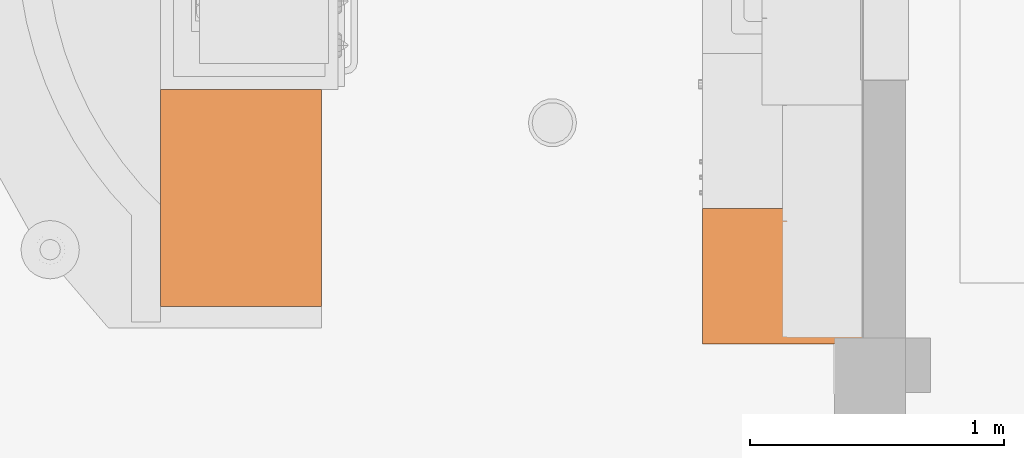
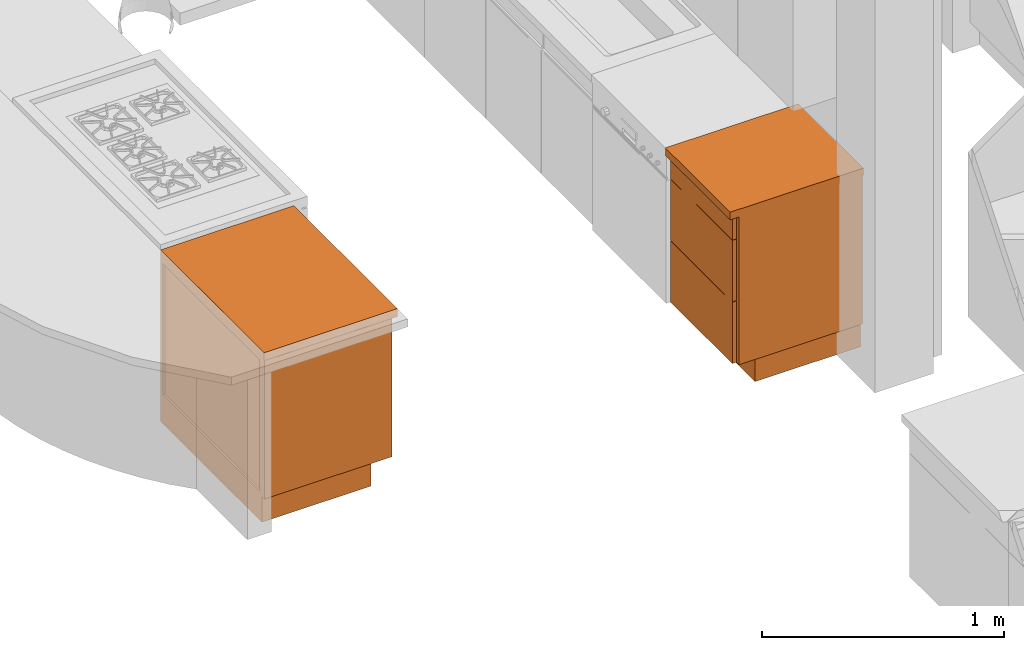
# One storey, part 62 of 77: 2 proxies.
"""IFC2X3 building model written with IfcOpenShell, lengths in inches."""

import ifcopenshell
import ifcopenshell.guid

model = None  # the IFC model being written
_history = None  # IfcOwnerHistory: only IFC2X3 demands one
_inside = {}  # id of a spatial element -> (the spatial element, [elements in it])
_under = {}  # id of a project, library or spatial element -> (it, [spatial elements below it])
_declared = {}  # id of a project -> (the project, [libraries it declares])
_typed = {}  # id of a type object -> (the type object, [elements of that type])
_made_of = {}  # id of a material, layer set ... -> (it, [elements and type objects made of it])


def new_model(schema):
    """Start an empty IFC model of exactly this schema.

    Asked for "IFC4X3", IfcOpenShell would pick the latest addendum, in which some entities
    have other attributes; the version numbers below select the first issue.
    IFC2X3 requires an IfcOwnerHistory on every rooted entity: one is made here for all.
    """
    global model, _history
    if schema == "IFC4X3":
        model = ifcopenshell.file(schema_version=(4, 3, 0, 0))
    else:
        model = ifcopenshell.file(schema=schema)
    _inside.clear()
    _under.clear()
    _declared.clear()
    _typed.clear()
    _made_of.clear()
    _history = None
    if model.schema == "IFC2X3":
        org = make("IfcOrganization", Name="unknown")
        user = make(
            "IfcPersonAndOrganization",
            ThePerson=make("IfcPerson", FamilyName="unknown"),
            TheOrganization=org,
        )
        app = make(
            "IfcApplication",
            ApplicationDeveloper=org,
            Version="unknown",
            ApplicationFullName="unknown",
            ApplicationIdentifier="unknown",
        )
        _history = make(
            "IfcOwnerHistory",
            OwningUser=user,
            OwningApplication=app,
            ChangeAction="ADDED",
            CreationDate=0,
        )
    return model


def make(cls, **values):
    """One entity of the class cls with the attributes given. An attribute that is None is left unset."""
    return model.create_entity(
        cls, **{name: value for name, value in values.items() if value is not None}
    )


def entity(cls, *values):
    """Any entity or typed value of the class cls, its attributes in the order of the schema. None: left unset."""
    e = model.create_entity(cls)
    for i, value in enumerate(values):
        if value is not None:
            e[i] = value
    return e


def rooted(cls, **values):
    """An entity with a GlobalId (a new one), such as an element, a storey or a relation."""
    return make(cls, GlobalId=ifcopenshell.guid.new(), OwnerHistory=_history, **values)


def si_unit(unit_type, name, prefix=None):
    """IfcSIUnit, for example si_unit("LENGTHUNIT", "METRE", prefix="MILLI")."""
    return make("IfcSIUnit", UnitType=unit_type, Prefix=prefix, Name=name)


def converted_unit(unit_type, name, factor, base, dimensions=None, offset=None):
    """IfcConversionBasedUnit, such as the inch: factor (a typed value) times the base unit."""
    return make(
        "IfcConversionBasedUnit"
        if offset is None
        else "IfcConversionBasedUnitWithOffset",
        ConversionOffset=offset,
        Dimensions=None
        if dimensions is None
        else entity("IfcDimensionalExponents", *dimensions),
        UnitType=unit_type,
        Name=name,
        ConversionFactor=make(
            "IfcMeasureWithUnit", ValueComponent=factor, UnitComponent=base
        ),
    )


def derived_unit(unit_type, elements):
    """IfcDerivedUnit: a product of units, each with its exponent."""
    return make(
        "IfcDerivedUnit",
        Elements=[
            make("IfcDerivedUnitElement", Unit=unit, Exponent=power)
            for unit, power in elements
        ],
        UnitType=unit_type,
    )


def money_unit(currency):
    """IfcMonetaryUnit."""
    return make("IfcMonetaryUnit", Currency=currency)


def assignment(units):
    """IfcUnitAssignment: the units of a project."""
    return None if units is None else make("IfcUnitAssignment", Units=units)


def point(xyz):
    """IfcCartesianPoint."""
    return None if xyz is None else make("IfcCartesianPoint", Coordinates=xyz)


def direction(xyz):
    """IfcDirection."""
    return None if xyz is None else make("IfcDirection", DirectionRatios=xyz)


def frame(location, z_axis=None, x_axis=None):
    """IfcAxis2Placement3D, a coordinate frame: its origin and axes. An axis left out is left unset."""
    return make(
        "IfcAxis2Placement3D",
        Location=point(location),
        Axis=direction(z_axis),
        RefDirection=direction(x_axis),
    )


def origin_with_axes():
    """The frame at (0, 0, 0) with the z axis (0, 0, 1) and the x axis (1, 0, 0) written out."""
    return frame((0.0, 0.0, 0.0), z_axis=(0.0, 0.0, 1.0), x_axis=(1.0, 0.0, 0.0))


def place(relative_to, where):
    """IfcLocalPlacement: puts the frame where relative to a parent placement (None: the world)."""
    return make(
        "IfcLocalPlacement", PlacementRelTo=relative_to, RelativePlacement=where
    )


def context(
    kind, dimensions, precision=None, world=None, true_north=None, identifier=None
):
    """IfcGeometricRepresentationContext, for example the 3D "Model" context."""
    return make(
        "IfcGeometricRepresentationContext",
        ContextIdentifier=identifier,
        ContextType=kind,
        CoordinateSpaceDimension=dimensions,
        Precision=precision,
        WorldCoordinateSystem=world,
        TrueNorth=true_north,
    )


def subcontext(parent, identifier, kind, view, scale=None):
    """IfcGeometricRepresentationSubContext, for example "Body" below "Model"."""
    return make(
        "IfcGeometricRepresentationSubContext",
        ContextIdentifier=identifier,
        ContextType=kind,
        ParentContext=parent,
        TargetScale=scale,
        TargetView=view,
    )


def project(units=None, contexts=None):
    """IfcProject with its units and contexts."""
    return rooted(
        "IfcProject",
        Name="project",
        RepresentationContexts=contexts,
        UnitsInContext=assignment(units),
    )


def spatial(cls, under=None, at=None, **own):
    """A site, building, storey or space (cls), placed at a placement, below another one or the project."""
    s = rooted(cls, ObjectPlacement=at, **own)
    if under is not None:
        _under.setdefault(under.id(), (under, []))[1].append(s)
    return s


def faces_of(points, faces, orient=None, outer=None):
    """IfcFace entities. A face is a list of loops; a loop is a list of indices into points, from 0.

    orient and outer hold one flag for each loop. By default every Orientation is true, the
    first loop of a face is its IfcFaceOuterBound and the others are IfcFaceBound.
    """
    made = []
    for i, loops in enumerate(faces):
        bounds = []
        for j, loop in enumerate(loops):
            is_outer = j == 0 if outer is None else outer[i][j]
            bounds.append(
                make(
                    "IfcFaceOuterBound" if is_outer else "IfcFaceBound",
                    Bound=make("IfcPolyLoop", Polygon=[points[k] for k in loop]),
                    Orientation=True if orient is None else orient[i][j],
                )
            )
        made.append(make("IfcFace", Bounds=bounds))
    return made


def faceted_brep(points, faces, orient=None, outer=None, voids=None):
    """IfcFacetedBrep: a solid bounded by flat faces; with voids (closed shells), ...WithVoids."""
    shared = [point(p) for p in points]
    hull = make("IfcClosedShell", CfsFaces=faces_of(shared, faces, orient, outer))
    if voids is None:
        return make("IfcFacetedBrep", Outer=hull)
    return make(
        "IfcFacetedBrepWithVoids",
        Outer=hull,
        Voids=[
            make(cls, CfsFaces=faces_of(shared, fs, o, b)) for cls, fs, o, b in voids
        ],
    )


def shape(context_of_items, identifier, shape_type, items):
    """IfcShapeRepresentation: the items that make up one representation, for example the "Body"."""
    return make(
        "IfcShapeRepresentation",
        ContextOfItems=context_of_items,
        RepresentationIdentifier=identifier,
        RepresentationType=shape_type,
        Items=items,
    )


def made_of(thing, what):
    """Note that an element or type object is made of a material, layer set ...; save() writes the relation."""
    if what is not None:
        _made_of.setdefault(what.id(), (what, []))[1].append(thing)
    return thing


def type_object(cls, material=None, **own):
    """A type object (cls), such as IfcWallType, which elements share."""
    return made_of(rooted(cls, **own), material)


def element(
    cls,
    number,
    at=None,
    inside=None,
    cuts=None,
    type_object=None,
    material=None,
    context=None,
    identifier="Body",
    shape_type=None,
    held_by="IfcProductDefinitionShape",
    body=None,
    shapes=None,
    **own,
):
    """One element of the class cls, such as IfcWall. Its Tag is "e" and its number.

    at: its placement. inside: the storey or other place that contains it. cuts: it is an
    opening in that element (IfcRelVoidsElement). A single representation is given by context,
    identifier, shape_type and body (its items); several are given by shapes. held_by: the class
    of the entity that holds the representations. save() writes the other relations.
    """
    e = rooted(cls, Tag="e%d" % number, ObjectPlacement=at, **own)
    if body is not None:
        shapes = [shape(context, identifier, shape_type, body)]
    if shapes is not None:
        e.Representation = make(held_by, Representations=shapes)
    if inside is not None:
        _inside.setdefault(inside.id(), (inside, []))[1].append(e)
    if cuts is not None:
        rooted(
            "IfcRelVoidsElement", RelatingBuildingElement=cuts, RelatedOpeningElement=e
        )
    if type_object is not None:
        _typed.setdefault(type_object.id(), (type_object, []))[1].append(e)
    return made_of(e, material)


def aggregate(whole, parts):
    """IfcRelAggregates: a whole, such as a stair, and the parts it consists of."""
    return rooted("IfcRelAggregates", RelatingObject=whole, RelatedObjects=parts)


def save(model, path):
    """Write the relations noted so far, then the file.

    IfcRelAggregates (storeys below a building ...), IfcRelContainedInSpatialStructure (elements
    in a storey), IfcRelDefinesByType, IfcRelAssociatesMaterial and IfcRelDeclares: one each for
    every whole, place, type object, material and project.
    """
    for whole, parts in _under.values():
        aggregate(whole, parts)
    for where, things in _inside.values():
        rooted(
            "IfcRelContainedInSpatialStructure",
            RelatedElements=things,
            RelatingStructure=where,
        )
    for kind, things in _typed.values():
        rooted("IfcRelDefinesByType", RelatedObjects=things, RelatingType=kind)
    for what, things in _made_of.values():
        rooted("IfcRelAssociatesMaterial", RelatedObjects=things, RelatingMaterial=what)
    for by, libraries in _declared.values():
        rooted("IfcRelDeclares", RelatingContext=by, RelatedDefinitions=libraries)
    model.write(path)


model = new_model("IFC2X3")

# Units and contexts
model_context = context("Model", 3, precision=0.000393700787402, world=origin_with_axes(), true_north=direction((0.0, 1.0)))
body_context = subcontext(model_context, "Body", "Model", "MODEL_VIEW")
ifc_project = project(units=[converted_unit("LENGTHUNIT", "INCH", entity("IfcPositiveLengthMeasure", 0.0254), si_unit("LENGTHUNIT", "METRE"), dimensions=[1, 0, 0, 0, 0, 0, 0]), converted_unit("AREAUNIT", "SQUARE_FOOT", entity("IfcPositiveLengthMeasure", 0.09290304), si_unit("AREAUNIT", "SQUARE_METRE"), dimensions=[2, 0, 0, 0, 0, 0, 0]), si_unit("PLANEANGLEUNIT", "RADIAN"), si_unit("SOLIDANGLEUNIT", "STERADIAN"), money_unit("USD"), converted_unit("TIMEUNIT", "Year", entity("IfcTimeMeasure", 31556926.0), si_unit("TIMEUNIT", "SECOND"), dimensions=[0, 0, 1, 0, 0, 0, 0]), si_unit("MASSUNIT", "GRAM", prefix="KILO"), si_unit("THERMODYNAMICTEMPERATUREUNIT", "DEGREE_CELSIUS"), si_unit("LUMINOUSINTENSITYUNIT", "LUMEN"), si_unit("ENERGYUNIT", "JOULE", prefix="MEGA"), derived_unit("THERMALCONDUCTANCEUNIT", [(si_unit("POWERUNIT", "WATT"), 1), (si_unit("LENGTHUNIT", "METRE"), -1), (si_unit("THERMODYNAMICTEMPERATUREUNIT", "KELVIN"), -1)]), derived_unit("SPECIFICHEATCAPACITYUNIT", [(si_unit("ENERGYUNIT", "JOULE"), 1), (si_unit("MASSUNIT", "GRAM", prefix="KILO"), -1), (si_unit("THERMODYNAMICTEMPERATUREUNIT", "KELVIN"), -1)]), derived_unit("MASSDENSITYUNIT", [(si_unit("MASSUNIT", "GRAM", prefix="KILO"), 1), (si_unit("VOLUMEUNIT", "CUBIC_METRE"), -1)])], contexts=[model_context])

# Site, building, storey
site_placement = place(None, origin_with_axes())
site = spatial("IfcSite", under=ifc_project, at=site_placement, Name="Site", CompositionType="ELEMENT")
building_placement = place(site_placement, origin_with_axes())
building = spatial("IfcBuilding", under=site, at=building_placement, Name="Building", CompositionType="ELEMENT")
storey_placement = place(building_placement, frame((0.0, 0.0, 127.952755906), z_axis=(0.0, 0.0, 1.0), x_axis=(1.0, 0.0, 0.0)))
storey = spatial("IfcBuildingStorey", under=building, at=storey_placement, Name="Second Floor", CompositionType="ELEMENT", Elevation=127.953)

# Proxies
building_element_proxy_type = type_object("IfcBuildingElementProxyType", Name="Base Cabinet Block 25", PredefinedType="NOTDEFINED")
proxy_1_placement = place(storey_placement, frame((637.474370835, 229.985912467, 0.0), z_axis=(0.0, 0.0, 1.0), x_axis=(0.0, -1.0, 0.0)))
element("IfcBuildingElementProxy", 1, at=proxy_1_placement, inside=storey, type_object=building_element_proxy_type, Name="OBJ-15", context=body_context, shape_type="Brep", body=[
    faceted_brep([(0.0, -25.0, 34.5236220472), (21.062992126, -25.0, 34.5236220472), (21.062992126, -25.0, 36.0236220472), (0.0, -25.0, 36.0236220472), (0.0, 0.0, 34.5236220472), (21.062992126, 0.0, 34.5236220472), (21.062992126, 0.0, 36.0236220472), (0.0, 0.0, 36.0236220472)], [[[0, 1, 2, 3]], [[0, 4, 5, 1]], [[1, 5, 6, 2]], [[3, 2, 6, 7]], [[4, 0, 3, 7]], [[5, 4, 7, 6]]]),
    faceted_brep([(19.1318897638, -23.25, 5.9468503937), (0.946850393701, -23.25, 5.9468503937), (0.946850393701, -0.75, 5.9468503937), (19.1318897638, -0.75, 5.9468503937), (19.1318897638, -23.25, 6.3405511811), (0.946850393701, -23.25, 6.3405511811), (0.946850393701, -0.75, 6.3405511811), (19.1318897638, -0.75, 6.3405511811)], [[[0, 1, 2, 3]], [[1, 0, 4, 5]], [[2, 1, 5, 6]], [[3, 2, 6, 7]], [[0, 3, 7, 4]], [[5, 4, 7, 6]]]),
    faceted_brep([(1.7342519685, -23.25, 6.3405511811), (0.946850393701, -23.25, 6.3405511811), (0.946850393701, -0.75, 6.3405511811), (1.7342519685, -0.75, 6.3405511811), (1.7342519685, -23.25, 17.0531496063), (0.946850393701, -23.25, 17.0531496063), (0.946850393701, -0.75, 17.0531496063), (1.7342519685, -0.75, 17.0531496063)], [[[0, 1, 2, 3]], [[1, 0, 4, 5]], [[2, 1, 5, 6]], [[3, 2, 6, 7]], [[0, 3, 7, 4]], [[5, 4, 7, 6]]]),
    faceted_brep([(19.1318897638, -23.25, 6.3405511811), (18.344488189, -23.25, 6.3405511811), (18.344488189, -0.75, 6.3405511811), (19.1318897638, -0.75, 6.3405511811), (19.1318897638, -23.25, 17.0531496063), (18.344488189, -23.25, 17.0531496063), (18.344488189, -0.75, 17.0531496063), (19.1318897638, -0.75, 17.0531496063)], [[[0, 1, 2, 3]], [[1, 0, 4, 5]], [[2, 1, 5, 6]], [[3, 2, 6, 7]], [[0, 3, 7, 4]], [[5, 4, 7, 6]]]),
    faceted_brep([(18.344488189, -1.3405511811, 6.3405511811), (1.7342519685, -1.3405511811, 6.3405511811), (1.7342519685, -0.946850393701, 6.3405511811), (18.344488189, -0.946850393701, 6.3405511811), (18.344488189, -1.3405511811, 17.0531496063), (1.7342519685, -1.3405511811, 17.0531496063), (1.7342519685, -0.946850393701, 17.0531496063), (18.344488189, -0.946850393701, 17.0531496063)], [[[0, 1, 2, 3]], [[1, 0, 4, 5]], [[2, 1, 5, 6]], [[3, 2, 6, 7]], [[0, 3, 7, 4]], [[5, 4, 7, 6]]]),
    faceted_brep([(19.1318897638, -23.25, 17.4468503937), (0.946850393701, -23.25, 17.4468503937), (0.946850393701, -0.75, 17.4468503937), (19.1318897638, -0.75, 17.4468503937), (19.1318897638, -23.25, 17.8405511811), (0.946850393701, -23.25, 17.8405511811), (0.946850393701, -0.75, 17.8405511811), (19.1318897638, -0.75, 17.8405511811)], [[[0, 1, 2, 3]], [[1, 0, 4, 5]], [[2, 1, 5, 6]], [[3, 2, 6, 7]], [[0, 3, 7, 4]], [[5, 4, 7, 6]]]),
    faceted_brep([(1.7342519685, -23.25, 17.8405511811), (0.946850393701, -23.25, 17.8405511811), (0.946850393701, -0.75, 17.8405511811), (1.7342519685, -0.75, 17.8405511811), (1.7342519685, -23.25, 29.3031496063), (0.946850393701, -23.25, 29.3031496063), (0.946850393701, -0.75, 29.3031496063), (1.7342519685, -0.75, 29.3031496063)], [[[0, 1, 2, 3]], [[1, 0, 4, 5]], [[2, 1, 5, 6]], [[3, 2, 6, 7]], [[0, 3, 7, 4]], [[5, 4, 7, 6]]]),
    faceted_brep([(19.1318897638, -23.25, 17.8405511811), (18.344488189, -23.25, 17.8405511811), (18.344488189, -0.75, 17.8405511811), (19.1318897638, -0.75, 17.8405511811), (19.1318897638, -23.25, 29.3031496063), (18.344488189, -23.25, 29.3031496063), (18.344488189, -0.75, 29.3031496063), (19.1318897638, -0.75, 29.3031496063)], [[[0, 1, 2, 3]], [[1, 0, 4, 5]], [[2, 1, 5, 6]], [[3, 2, 6, 7]], [[0, 3, 7, 4]], [[5, 4, 7, 6]]]),
    faceted_brep([(18.344488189, -1.3405511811, 17.8405511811), (1.7342519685, -1.3405511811, 17.8405511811), (1.7342519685, -0.946850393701, 17.8405511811), (18.344488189, -0.946850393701, 17.8405511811), (18.344488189, -1.3405511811, 29.3031496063), (1.7342519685, -1.3405511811, 29.3031496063), (1.7342519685, -0.946850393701, 29.3031496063), (18.344488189, -0.946850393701, 29.3031496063)], [[[0, 1, 2, 3]], [[1, 0, 4, 5]], [[2, 1, 5, 6]], [[3, 2, 6, 7]], [[0, 3, 7, 4]], [[5, 4, 7, 6]]]),
    faceted_brep([(19.1318897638, -23.25, 29.6968503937), (0.946850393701, -23.25, 29.6968503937), (0.946850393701, -0.75, 29.6968503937), (19.1318897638, -0.75, 29.6968503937), (19.1318897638, -23.25, 30.0905511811), (0.946850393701, -23.25, 30.0905511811), (0.946850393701, -0.75, 30.0905511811), (19.1318897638, -0.75, 30.0905511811)], [[[0, 1, 2, 3]], [[1, 0, 4, 5]], [[2, 1, 5, 6]], [[3, 2, 6, 7]], [[0, 3, 7, 4]], [[5, 4, 7, 6]]]),
    faceted_brep([(1.7342519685, -23.25, 30.0905511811), (0.946850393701, -23.25, 30.0905511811), (0.946850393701, -0.75, 30.0905511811), (1.7342519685, -0.75, 30.0905511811), (1.7342519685, -23.25, 33.5767716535), (0.946850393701, -23.25, 33.5767716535), (0.946850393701, -0.75, 33.5767716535), (1.7342519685, -0.75, 33.5767716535)], [[[0, 1, 2, 3]], [[1, 0, 4, 5]], [[2, 1, 5, 6]], [[3, 2, 6, 7]], [[0, 3, 7, 4]], [[5, 4, 7, 6]]]),
    faceted_brep([(19.1318897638, -23.25, 30.0905511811), (18.344488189, -23.25, 30.0905511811), (18.344488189, -0.75, 30.0905511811), (19.1318897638, -0.75, 30.0905511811), (19.1318897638, -23.25, 33.5767716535), (18.344488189, -23.25, 33.5767716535), (18.344488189, -0.75, 33.5767716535), (19.1318897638, -0.75, 33.5767716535)], [[[0, 1, 2, 3]], [[1, 0, 4, 5]], [[2, 1, 5, 6]], [[3, 2, 6, 7]], [[0, 3, 7, 4]], [[5, 4, 7, 6]]]),
    faceted_brep([(18.344488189, -1.3405511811, 30.0905511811), (1.7342519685, -1.3405511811, 30.0905511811), (1.7342519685, -0.946850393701, 30.0905511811), (18.344488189, -0.946850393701, 30.0905511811), (18.344488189, -1.3405511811, 33.5767716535), (1.7342519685, -1.3405511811, 33.5767716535), (1.7342519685, -0.946850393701, 33.5767716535), (18.344488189, -0.946850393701, 33.5767716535)], [[[0, 1, 2, 3]], [[1, 0, 4, 5]], [[2, 1, 5, 6]], [[3, 2, 6, 7]], [[0, 3, 7, 4]], [[5, 4, 7, 6]]]),
    faceted_brep([(0.0393700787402, -23.25, 5.03937007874), (20.0393700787, -23.25, 5.03937007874), (20.0393700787, -24.0, 5.03937007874), (0.0393700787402, -24.0, 5.03937007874), (0.0393700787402, -23.25, 17.2106299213), (20.0393700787, -23.25, 17.2106299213), (20.0393700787, -24.0, 17.2106299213), (0.0393700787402, -24.0, 17.2106299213)], [[[0, 1, 2, 3]], [[0, 4, 5, 1]], [[1, 5, 6, 2]], [[3, 2, 6, 7]], [[4, 0, 3, 7]], [[5, 4, 7, 6]]]),
    faceted_brep([(0.0393700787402, -23.25, 17.2893700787), (20.0393700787, -23.25, 17.2893700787), (20.0393700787, -24.0, 17.2893700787), (0.0393700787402, -24.0, 17.2893700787), (0.0393700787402, -23.25, 29.4606299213), (20.0393700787, -23.25, 29.4606299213), (20.0393700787, -24.0, 29.4606299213), (0.0393700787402, -24.0, 29.4606299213)], [[[0, 1, 2, 3]], [[0, 4, 5, 1]], [[1, 5, 6, 2]], [[3, 2, 6, 7]], [[4, 0, 3, 7]], [[5, 4, 7, 6]]]),
    faceted_brep([(0.0393700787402, -23.25, 29.5393700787), (20.0393700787, -23.25, 29.5393700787), (20.0393700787, -24.0, 29.5393700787), (0.0393700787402, -24.0, 29.5393700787), (0.0393700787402, -23.25, 34.4842519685), (20.0393700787, -23.25, 34.4842519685), (20.0393700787, -24.0, 34.4842519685), (0.0393700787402, -24.0, 34.4842519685)], [[[0, 1, 2, 3]], [[0, 4, 5, 1]], [[1, 5, 6, 2]], [[3, 2, 6, 7]], [[4, 0, 3, 7]], [[5, 4, 7, 6]]]),
    faceted_brep([(20.0787401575, -23.2106299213, 5.03937007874), (20.0787401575, -0.0393700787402, 5.03937007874), (20.8661417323, -0.0393700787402, 5.03937007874), (20.8661417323, -23.2106299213, 5.03937007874), (20.0787401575, -23.2106299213, 34.4842519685), (20.0787401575, -0.0393700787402, 34.4842519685), (20.8661417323, -0.0393700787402, 34.4842519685), (20.8661417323, -23.2106299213, 34.4842519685)], [[[0, 1, 2, 3]], [[0, 4, 5, 1]], [[1, 5, 6, 2]], [[3, 2, 6, 7]], [[4, 0, 3, 7]], [[5, 4, 7, 6]]]),
    faceted_brep([(0.75, -23.25, 5.0), (19.3287401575, -23.25, 5.0), (19.3287401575, -23.25, 5.75), (0.75, -23.25, 5.75), (0.75, 0.0, 5.0), (19.3287401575, 0.0, 5.0), (19.3287401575, 0.0, 5.75), (0.75, 0.0, 5.75)], [[[0, 1, 2, 3]], [[0, 4, 5, 1]], [[1, 5, 6, 2]], [[3, 2, 6, 7]], [[4, 0, 3, 7]], [[5, 4, 7, 6]]]),
    faceted_brep([(0.75, -23.25, 33.7736220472), (0.75, -20.8877952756, 33.7736220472), (19.3287401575, -20.8877952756, 33.7736220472), (19.3287401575, -23.25, 33.7736220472), (0.75, -23.25, 34.5236220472), (0.75, -20.8877952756, 34.5236220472), (19.3287401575, -20.8877952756, 34.5236220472), (19.3287401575, -23.25, 34.5236220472)], [[[0, 1, 2, 3]], [[0, 4, 5, 1]], [[1, 5, 6, 2]], [[3, 2, 6, 7]], [[4, 0, 3, 7]], [[5, 4, 7, 6]]]),
    faceted_brep([(19.3287401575, 0.0, 33.7736220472), (19.3287401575, -2.36220472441, 33.7736220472), (0.75, -2.36220472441, 33.7736220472), (0.75, 0.0, 33.7736220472), (19.3287401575, 0.0, 34.5236220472), (19.3287401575, -2.36220472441, 34.5236220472), (0.75, -2.36220472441, 34.5236220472), (0.75, 0.0, 34.5236220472)], [[[0, 1, 2, 3]], [[0, 4, 5, 1]], [[1, 5, 6, 2]], [[3, 2, 6, 7]], [[4, 0, 3, 7]], [[5, 4, 7, 6]]]),
    faceted_brep([(0.0, 0.0, 5.0), (0.0, -23.25, 5.0), (0.0, -23.25, 34.5236220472), (0.0, 0.0, 34.5236220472), (0.75, 0.0, 5.0), (0.75, -23.25, 5.0), (0.75, -23.25, 34.5236220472), (0.75, 0.0, 34.5236220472)], [[[0, 1, 2, 3]], [[0, 4, 5, 1]], [[1, 5, 6, 2]], [[3, 2, 6, 7]], [[4, 0, 3, 7]], [[5, 4, 7, 6]]]),
    faceted_brep([(20.0787401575, -23.25, 5.0), (20.0787401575, 0.0, 5.0), (20.0787401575, 0.0, 34.5236220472), (20.0787401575, -23.25, 34.5236220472), (19.3287401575, -23.25, 5.0), (19.3287401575, 0.0, 5.0), (19.3287401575, 0.0, 34.5236220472), (19.3287401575, -23.25, 34.5236220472)], [[[0, 1, 2, 3]], [[0, 4, 5, 1]], [[1, 5, 6, 2]], [[3, 2, 6, 7]], [[4, 0, 3, 7]], [[5, 4, 7, 6]]]),
    faceted_brep([(19.3287401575, -0.375, 5.75), (0.75, -0.375, 5.75), (0.75, -0.375, 33.7736220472), (19.3287401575, -0.375, 33.7736220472), (19.3287401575, -0.75, 5.75), (0.75, -0.75, 5.75), (0.75, -0.75, 33.7736220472), (19.3287401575, -0.75, 33.7736220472)], [[[0, 1, 2, 3]], [[0, 4, 5, 1]], [[1, 5, 6, 2]], [[3, 2, 6, 7]], [[4, 0, 3, 7]], [[5, 4, 7, 6]]]),
    faceted_brep([(0.0, -19.75, 0.0), (20.0787401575, -19.75, 0.0), (20.0787401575, -19.75, 5.0), (0.0, -19.75, 5.0), (0.0, 0.0, 0.0), (20.0787401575, 0.0, 0.0), (20.0787401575, 0.0, 5.0), (0.0, 0.0, 5.0)], [[[0, 1, 2, 3]], [[0, 4, 5, 1]], [[1, 5, 6, 2]], [[3, 2, 6, 7]], [[4, 0, 3, 7]], [[5, 4, 7, 6]]]),
])
proxy_2_placement = place(storey_placement, frame((528.452121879, 214.741076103, 0.0), z_axis=(0.0, 0.0, 1.0), x_axis=(0.0, 1.0, 0.0)))
element("IfcBuildingElementProxy", 2, at=proxy_2_placement, inside=storey, type_object=building_element_proxy_type, Name="OBJ-16", context=body_context, shape_type="Brep", body=[
    faceted_brep([(0.0, -25.0, 32.4803149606), (33.6614173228, -25.0, 32.4803149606), (33.6614173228, -25.0, 34.0551181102), (0.0, -25.0, 34.0551181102), (0.0, 0.0, 32.4803149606), (33.6614173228, 0.0, 32.4803149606), (33.6614173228, 0.0, 34.0551181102), (0.0, 0.0, 34.0551181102)], [[[0, 1, 2, 3]], [[0, 4, 5, 1]], [[1, 5, 6, 2]], [[3, 2, 6, 7]], [[4, 0, 3, 7]], [[5, 4, 7, 6]]]),
    faceted_brep([(1.5, -24.0, 12.125), (32.9114173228, -24.0, 12.125), (32.9114173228, -24.0, 12.875), (1.5, -24.0, 12.875), (1.5, -0.75, 12.125), (32.9114173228, -0.75, 12.125), (32.9114173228, -0.75, 12.875), (1.5, -0.75, 12.875)], [[[0, 1, 2, 3]], [[0, 4, 5, 1]], [[1, 5, 6, 2]], [[3, 2, 6, 7]], [[4, 0, 3, 7]], [[5, 4, 7, 6]]]),
    faceted_brep([(1.5, -24.0, 19.625), (32.9114173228, -24.0, 19.625), (32.9114173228, -24.0, 20.375), (1.5, -24.0, 20.375), (1.5, -0.75, 19.625), (32.9114173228, -0.75, 19.625), (32.9114173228, -0.75, 20.375), (1.5, -0.75, 20.375)], [[[0, 1, 2, 3]], [[0, 4, 5, 1]], [[1, 5, 6, 2]], [[3, 2, 6, 7]], [[4, 0, 3, 7]], [[5, 4, 7, 6]]]),
    faceted_brep([(1.5, -24.0, 27.125), (32.9114173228, -24.0, 27.125), (32.9114173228, -24.0, 27.875), (1.5, -24.0, 27.875), (1.5, -0.75, 27.125), (32.9114173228, -0.75, 27.125), (32.9114173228, -0.75, 27.875), (1.5, -0.75, 27.875)], [[[0, 1, 2, 3]], [[0, 4, 5, 1]], [[1, 5, 6, 2]], [[3, 2, 6, 7]], [[4, 0, 3, 7]], [[5, 4, 7, 6]]]),
    faceted_brep([(1.53937007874, -23.25, 27.9143700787), (32.8720472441, -23.25, 27.9143700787), (32.8720472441, -24.0, 27.9143700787), (1.53937007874, -24.0, 27.9143700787), (1.53937007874, -23.25, 31.6909448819), (32.8720472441, -23.25, 31.6909448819), (32.8720472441, -24.0, 31.6909448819), (1.53937007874, -24.0, 31.6909448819)], [[[0, 1, 2, 3]], [[0, 4, 5, 1]], [[1, 5, 6, 2]], [[3, 2, 6, 7]], [[4, 0, 3, 7]], [[5, 4, 7, 6]]]),
    faceted_brep([(0.75, -0.0393700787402, 5.03937007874), (0.75, -23.9606299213, 5.03937007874), (0.0, -23.9606299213, 5.03937007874), (0.0, -0.0393700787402, 5.03937007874), (0.75, -0.0393700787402, 32.4409448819), (0.75, -23.9606299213, 32.4409448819), (0.0, -23.9606299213, 32.4409448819), (0.0, -0.0393700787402, 32.4409448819)], [[[0, 1, 2, 3]], [[0, 4, 5, 1]], [[1, 5, 6, 2]], [[3, 2, 6, 7]], [[4, 0, 3, 7]], [[5, 4, 7, 6]]]),
    faceted_brep([(1.5, -24.0, 5.0), (32.9114173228, -24.0, 5.0), (32.9114173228, -24.0, 5.75), (1.5, -24.0, 5.75), (1.5, 0.0, 5.0), (32.9114173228, 0.0, 5.0), (32.9114173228, 0.0, 5.75), (1.5, 0.0, 5.75)], [[[0, 1, 2, 3]], [[0, 4, 5, 1]], [[1, 5, 6, 2]], [[3, 2, 6, 7]], [[4, 0, 3, 7]], [[5, 4, 7, 6]]]),
    faceted_brep([(1.5, -24.0, 31.7303149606), (1.5, -21.6377952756, 31.7303149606), (32.9114173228, -21.6377952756, 31.7303149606), (32.9114173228, -24.0, 31.7303149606), (1.5, -24.0, 32.4803149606), (1.5, -21.6377952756, 32.4803149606), (32.9114173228, -21.6377952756, 32.4803149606), (32.9114173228, -24.0, 32.4803149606)], [[[0, 1, 2, 3]], [[0, 4, 5, 1]], [[1, 5, 6, 2]], [[3, 2, 6, 7]], [[4, 0, 3, 7]], [[5, 4, 7, 6]]]),
    faceted_brep([(32.9114173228, 0.0, 31.7303149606), (32.9114173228, -2.36220472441, 31.7303149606), (1.5, -2.36220472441, 31.7303149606), (1.5, 0.0, 31.7303149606), (32.9114173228, 0.0, 32.4803149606), (32.9114173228, -2.36220472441, 32.4803149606), (1.5, -2.36220472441, 32.4803149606), (1.5, 0.0, 32.4803149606)], [[[0, 1, 2, 3]], [[0, 4, 5, 1]], [[1, 5, 6, 2]], [[3, 2, 6, 7]], [[4, 0, 3, 7]], [[5, 4, 7, 6]]]),
    faceted_brep([(0.75, 0.0, 5.0), (0.75, -24.0, 5.0), (0.75, -24.0, 32.4803149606), (0.75, 0.0, 32.4803149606), (1.5, 0.0, 5.0), (1.5, -24.0, 5.0), (1.5, -24.0, 32.4803149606), (1.5, 0.0, 32.4803149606)], [[[0, 1, 2, 3]], [[0, 4, 5, 1]], [[1, 5, 6, 2]], [[3, 2, 6, 7]], [[4, 0, 3, 7]], [[5, 4, 7, 6]]]),
    faceted_brep([(33.6614173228, -24.0, 5.0), (33.6614173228, 0.0, 5.0), (33.6614173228, 0.0, 32.4803149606), (33.6614173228, -24.0, 32.4803149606), (32.9114173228, -24.0, 5.0), (32.9114173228, 0.0, 5.0), (32.9114173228, 0.0, 32.4803149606), (32.9114173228, -24.0, 32.4803149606)], [[[0, 1, 2, 3]], [[0, 4, 5, 1]], [[1, 5, 6, 2]], [[3, 2, 6, 7]], [[4, 0, 3, 7]], [[5, 4, 7, 6]]]),
    faceted_brep([(32.9114173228, -0.375, 5.75), (1.5, -0.375, 5.75), (1.5, -0.375, 31.7303149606), (32.9114173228, -0.375, 31.7303149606), (32.9114173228, -0.75, 5.75), (1.5, -0.75, 5.75), (1.5, -0.75, 31.7303149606), (32.9114173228, -0.75, 31.7303149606)], [[[0, 1, 2, 3]], [[0, 4, 5, 1]], [[1, 5, 6, 2]], [[3, 2, 6, 7]], [[4, 0, 3, 7]], [[5, 4, 7, 6]]]),
    faceted_brep([(0.75, -20.5, 0.0), (33.6614173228, -20.5, 0.0), (33.6614173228, -20.5, 5.0), (0.75, -20.5, 5.0), (0.75, 0.0, 0.0), (33.6614173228, 0.0, 0.0), (33.6614173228, 0.0, 5.0), (0.75, 0.0, 5.0)], [[[0, 1, 2, 3]], [[0, 4, 5, 1]], [[1, 5, 6, 2]], [[3, 2, 6, 7]], [[4, 0, 3, 7]], [[5, 4, 7, 6]]]),
])

save(model, "model.ifc")
